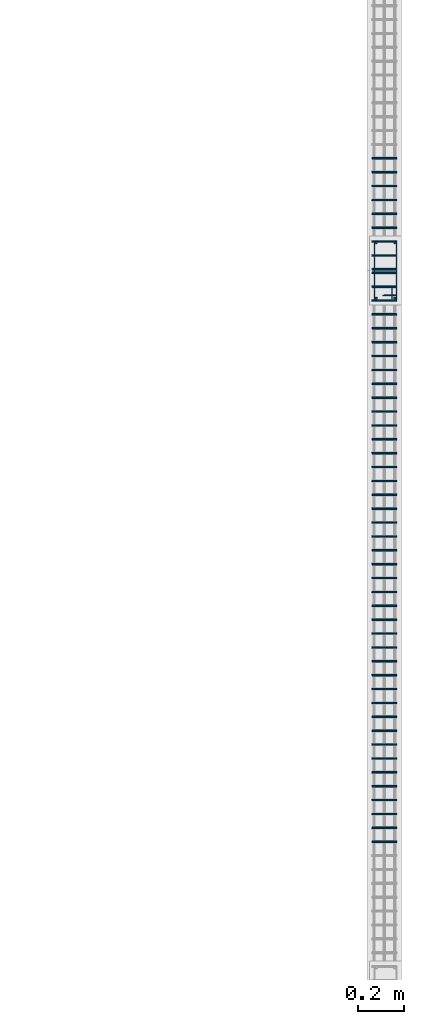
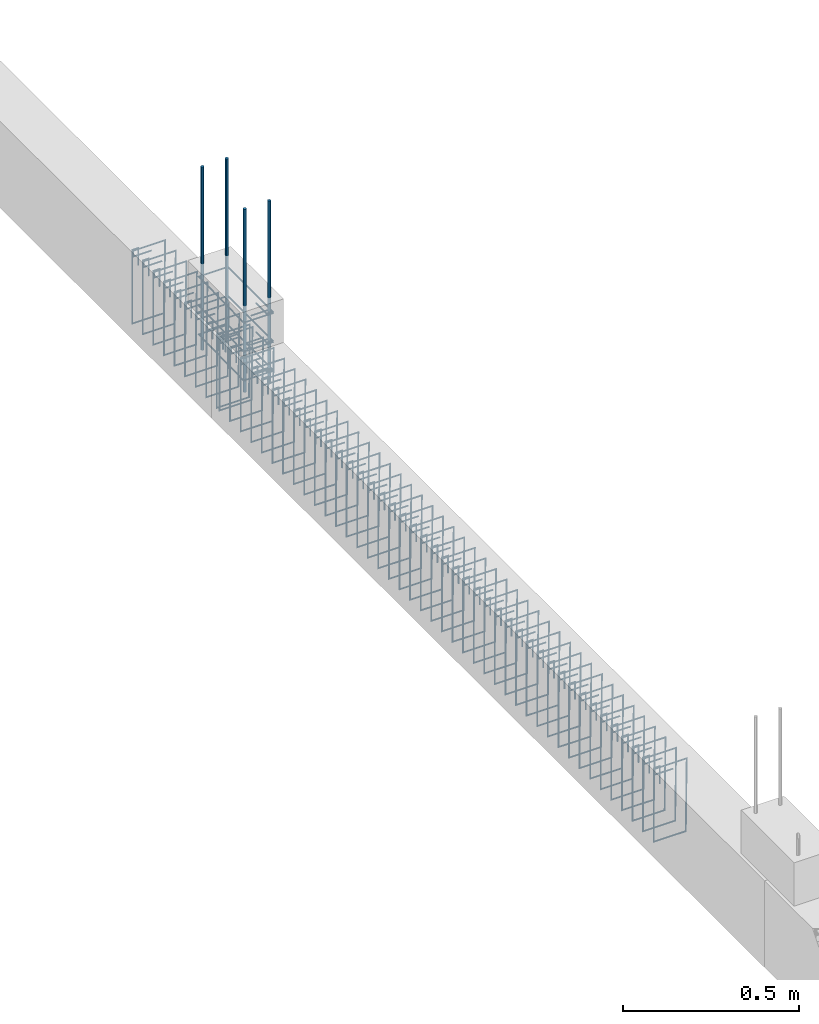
# One storey, part 147 of 150: 58 reinforcing bars.
"""IFC4 building model written with IfcOpenShell, lengths in centimetres."""

import ifcopenshell
import ifcopenshell.guid

model = None  # the IFC model being written
_history = None  # IfcOwnerHistory: only IFC2X3 demands one
_inside = {}  # id of a spatial element -> (the spatial element, [elements in it])
_under = {}  # id of a project, library or spatial element -> (it, [spatial elements below it])
_declared = {}  # id of a project -> (the project, [libraries it declares])
_typed = {}  # id of a type object -> (the type object, [elements of that type])
_made_of = {}  # id of a material, layer set ... -> (it, [elements and type objects made of it])


def new_model(schema):
    """Start an empty IFC model of exactly this schema.

    Asked for "IFC4X3", IfcOpenShell would pick the latest addendum, in which some entities
    have other attributes; the version numbers below select the first issue.
    IFC2X3 requires an IfcOwnerHistory on every rooted entity: one is made here for all.
    """
    global model, _history
    if schema == "IFC4X3":
        model = ifcopenshell.file(schema_version=(4, 3, 0, 0))
    else:
        model = ifcopenshell.file(schema=schema)
    _inside.clear()
    _under.clear()
    _declared.clear()
    _typed.clear()
    _made_of.clear()
    _history = None
    if model.schema == "IFC2X3":
        org = make("IfcOrganization", Name="unknown")
        user = make(
            "IfcPersonAndOrganization",
            ThePerson=make("IfcPerson", FamilyName="unknown"),
            TheOrganization=org,
        )
        app = make(
            "IfcApplication",
            ApplicationDeveloper=org,
            Version="unknown",
            ApplicationFullName="unknown",
            ApplicationIdentifier="unknown",
        )
        _history = make(
            "IfcOwnerHistory",
            OwningUser=user,
            OwningApplication=app,
            ChangeAction="ADDED",
            CreationDate=0,
        )
    return model


def make(cls, **values):
    """One entity of the class cls with the attributes given. An attribute that is None is left unset."""
    return model.create_entity(
        cls, **{name: value for name, value in values.items() if value is not None}
    )


def entity(cls, *values):
    """Any entity or typed value of the class cls, its attributes in the order of the schema. None: left unset."""
    e = model.create_entity(cls)
    for i, value in enumerate(values):
        if value is not None:
            e[i] = value
    return e


def rooted(cls, **values):
    """An entity with a GlobalId (a new one), such as an element, a storey or a relation."""
    return make(cls, GlobalId=ifcopenshell.guid.new(), OwnerHistory=_history, **values)


def si_unit(unit_type, name, prefix=None):
    """IfcSIUnit, for example si_unit("LENGTHUNIT", "METRE", prefix="MILLI")."""
    return make("IfcSIUnit", UnitType=unit_type, Prefix=prefix, Name=name)


def derived_unit(unit_type, elements):
    """IfcDerivedUnit: a product of units, each with its exponent."""
    return make(
        "IfcDerivedUnit",
        Elements=[
            make("IfcDerivedUnitElement", Unit=unit, Exponent=power)
            for unit, power in elements
        ],
        UnitType=unit_type,
    )


def assignment(units):
    """IfcUnitAssignment: the units of a project."""
    return None if units is None else make("IfcUnitAssignment", Units=units)


def point(xyz):
    """IfcCartesianPoint."""
    return None if xyz is None else make("IfcCartesianPoint", Coordinates=xyz)


def direction(xyz):
    """IfcDirection."""
    return None if xyz is None else make("IfcDirection", DirectionRatios=xyz)


def frame(location, z_axis=None, x_axis=None):
    """IfcAxis2Placement3D, a coordinate frame: its origin and axes. An axis left out is left unset."""
    return make(
        "IfcAxis2Placement3D",
        Location=point(location),
        Axis=direction(z_axis),
        RefDirection=direction(x_axis),
    )


def origin_with_axes():
    """The frame at (0, 0, 0) with the z axis (0, 0, 1) and the x axis (1, 0, 0) written out."""
    return frame((0.0, 0.0, 0.0), z_axis=(0.0, 0.0, 1.0), x_axis=(1.0, 0.0, 0.0))


def place(relative_to, where):
    """IfcLocalPlacement: puts the frame where relative to a parent placement (None: the world)."""
    return make(
        "IfcLocalPlacement", PlacementRelTo=relative_to, RelativePlacement=where
    )


def context(
    kind, dimensions, precision=None, world=None, true_north=None, identifier=None
):
    """IfcGeometricRepresentationContext, for example the 3D "Model" context."""
    return make(
        "IfcGeometricRepresentationContext",
        ContextIdentifier=identifier,
        ContextType=kind,
        CoordinateSpaceDimension=dimensions,
        Precision=precision,
        WorldCoordinateSystem=world,
        TrueNorth=true_north,
    )


def project(units=None, contexts=None):
    """IfcProject with its units and contexts."""
    return rooted(
        "IfcProject",
        Name="project",
        RepresentationContexts=contexts,
        UnitsInContext=assignment(units),
    )


def spatial(cls, under=None, at=None, **own):
    """A site, building, storey or space (cls), placed at a placement, below another one or the project."""
    s = rooted(cls, ObjectPlacement=at, **own)
    if under is not None:
        _under.setdefault(under.id(), (under, []))[1].append(s)
    return s


def shape(context_of_items, identifier, shape_type, items):
    """IfcShapeRepresentation: the items that make up one representation, for example the "Body"."""
    return make(
        "IfcShapeRepresentation",
        ContextOfItems=context_of_items,
        RepresentationIdentifier=identifier,
        RepresentationType=shape_type,
        Items=items,
    )


def source(mapping_origin, context_of_items, identifier, shape_type, items):
    """IfcRepresentationMap: a shape defined once, which mapped items show again and again."""
    return make(
        "IfcRepresentationMap",
        MappingOrigin=mapping_origin,
        MappedRepresentation=shape(context_of_items, identifier, shape_type, items),
    )


def transform(
    local_origin,
    x_axis=None,
    y_axis=None,
    z_axis=None,
    scale=None,
    scale2=None,
    scale3=None,
    uniform=True,
):
    """IfcCartesianTransformationOperator3D, or its non-uniform kind. x_axis, y_axis, z_axis: its Axis1, 2, 3."""
    if uniform:
        return make(
            "IfcCartesianTransformationOperator3D",
            Axis1=direction(x_axis),
            Axis2=direction(y_axis),
            LocalOrigin=point(local_origin),
            Scale=scale,
            Axis3=direction(z_axis),
        )
    return make(
        "IfcCartesianTransformationOperator3DnonUniform",
        Axis1=direction(x_axis),
        Axis2=direction(y_axis),
        LocalOrigin=point(local_origin),
        Scale=scale,
        Axis3=direction(z_axis),
        Scale2=scale2,
        Scale3=scale3,
    )


def mapped(mapping_source, mapping_target):
    """IfcMappedItem: shows the shape of a source again, moved by a transform."""
    return make(
        "IfcMappedItem", MappingSource=mapping_source, MappingTarget=mapping_target
    )


def made_of(thing, what):
    """Note that an element or type object is made of a material, layer set ...; save() writes the relation."""
    if what is not None:
        _made_of.setdefault(what.id(), (what, []))[1].append(thing)
    return thing


def element(
    cls,
    number,
    at=None,
    inside=None,
    cuts=None,
    type_object=None,
    material=None,
    context=None,
    identifier="Body",
    shape_type=None,
    held_by="IfcProductDefinitionShape",
    body=None,
    shapes=None,
    **own,
):
    """One element of the class cls, such as IfcWall. Its Tag is "e" and its number.

    at: its placement. inside: the storey or other place that contains it. cuts: it is an
    opening in that element (IfcRelVoidsElement). A single representation is given by context,
    identifier, shape_type and body (its items); several are given by shapes. held_by: the class
    of the entity that holds the representations. save() writes the other relations.
    """
    e = rooted(cls, Tag="e%d" % number, ObjectPlacement=at, **own)
    if body is not None:
        shapes = [shape(context, identifier, shape_type, body)]
    if shapes is not None:
        e.Representation = make(held_by, Representations=shapes)
    if inside is not None:
        _inside.setdefault(inside.id(), (inside, []))[1].append(e)
    if cuts is not None:
        rooted(
            "IfcRelVoidsElement", RelatingBuildingElement=cuts, RelatedOpeningElement=e
        )
    if type_object is not None:
        _typed.setdefault(type_object.id(), (type_object, []))[1].append(e)
    return made_of(e, material)


def aggregate(whole, parts):
    """IfcRelAggregates: a whole, such as a stair, and the parts it consists of."""
    return rooted("IfcRelAggregates", RelatingObject=whole, RelatedObjects=parts)


def save(model, path):
    """Write the relations noted so far, then the file.

    IfcRelAggregates (storeys below a building ...), IfcRelContainedInSpatialStructure (elements
    in a storey), IfcRelDefinesByType, IfcRelAssociatesMaterial and IfcRelDeclares: one each for
    every whole, place, type object, material and project.
    """
    for whole, parts in _under.values():
        aggregate(whole, parts)
    for where, things in _inside.values():
        rooted(
            "IfcRelContainedInSpatialStructure",
            RelatedElements=things,
            RelatingStructure=where,
        )
    for kind, things in _typed.values():
        rooted("IfcRelDefinesByType", RelatedObjects=things, RelatingType=kind)
    for what, things in _made_of.values():
        rooted("IfcRelAssociatesMaterial", RelatedObjects=things, RelatingMaterial=what)
    for by, libraries in _declared.values():
        rooted("IfcRelDeclares", RelatingContext=by, RelatedDefinitions=libraries)
    model.write(path)


model = new_model("IFC4")

# Units and contexts
model_context = context("Model", 3, precision=1e-05, world=origin_with_axes(), identifier="Body")
ifc_project = project(units=[si_unit("LENGTHUNIT", "METRE", prefix="CENTI"), si_unit("VOLUMEUNIT", "CUBIC_METRE"), si_unit("AREAUNIT", "SQUARE_METRE"), si_unit("POWERUNIT", "WATT"), si_unit("LUMINOUSFLUXUNIT", "LUMEN"), si_unit("ELECTRICCURRENTUNIT", "AMPERE"), si_unit("PRESSUREUNIT", "PASCAL", prefix="KILO"), si_unit("MASSUNIT", "GRAM", prefix="KILO"), si_unit("PLANEANGLEUNIT", "RADIAN"), derived_unit("VOLUMETRICFLOWRATEUNIT", [(si_unit("LENGTHUNIT", "METRE"), 3), (si_unit("TIMEUNIT", "SECOND"), -1)])], contexts=[model_context])

# Site, building, storey
site_placement = place(None, frame((-4000.0, 0.0, 0.0), z_axis=(0.0, 0.0, 1.0), x_axis=(1.0, 0.0, 0.0)))
site = spatial("IfcSite", under=ifc_project, at=site_placement, Name="PADRÃO")
building_placement = place(site_placement, frame((0.0, 0.0, -14.0)))
building = spatial("IfcBuilding", under=site, at=building_placement, Name="CRECHE PRÉ-ESCOLA TIPO 2")
placement = place(building_placement, origin_with_axes())
storey_placement = place(placement, frame((0.0, 0.0, 30.0), z_axis=(0.0, 0.0, 1.0), x_axis=(1.0, 0.0, 0.0)))
storey = spatial("IfcBuildingStorey", under=building, at=storey_placement, Name="VIGA BALDRAME", CompositionType="ELEMENT", Elevation=16.0)

# Reinforcing bars
shared_shape_1 = source(origin_with_axes(), model_context, "Body", "AdvancedSweptSolid", [
    entity("IfcSweptDiskSolid", entity("IfcCompositeCurve", [entity("IfcCompositeCurveSegment", "CONTINUOUS", True, entity("IfcPolyline", [entity("IfcCartesianPoint", [4.25, 21.75, 0.0]), entity("IfcCartesianPoint", [4.25, 27.75, 0.0])])), entity("IfcCompositeCurveSegment", "CONTINUOUS", True, entity("IfcPolyline", [entity("IfcCartesianPoint", [4.25, 27.75, 0.0]), entity("IfcCartesianPoint", [2.25, 27.75, 0.0])])), entity("IfcCompositeCurveSegment", "CONTINUOUS", True, entity("IfcPolyline", [entity("IfcCartesianPoint", [2.25, 27.75, 0.0]), entity("IfcCartesianPoint", [2.25, 2.25, 0.0])])), entity("IfcCompositeCurveSegment", "CONTINUOUS", True, entity("IfcPolyline", [entity("IfcCartesianPoint", [2.25, 2.25, 0.0]), entity("IfcCartesianPoint", [11.75, 2.25, 0.0])])), entity("IfcCompositeCurveSegment", "CONTINUOUS", True, entity("IfcPolyline", [entity("IfcCartesianPoint", [11.75, 2.25, 0.0]), entity("IfcCartesianPoint", [11.75, 27.75, -0.5])])), entity("IfcCompositeCurveSegment", "CONTINUOUS", True, entity("IfcPolyline", [entity("IfcCartesianPoint", [11.75, 27.75, -0.5]), entity("IfcCartesianPoint", [2.25, 27.75, -0.5])])), entity("IfcCompositeCurveSegment", "CONTINUOUS", True, entity("IfcPolyline", [entity("IfcCartesianPoint", [2.25, 27.75, -0.5]), entity("IfcCartesianPoint", [2.25, 25.75, -0.5])])), entity("IfcCompositeCurveSegment", "CONTINUOUS", True, entity("IfcPolyline", [entity("IfcCartesianPoint", [2.25, 25.75, -0.5]), entity("IfcCartesianPoint", [8.25, 25.75, -0.5])]))], False), 0.25),
])
for number, where, z_axis, x_axis, name in (
    (1, (3999.0, 3870.0, -15.0), (0.0, 0.0, 1.0), (-1.0, 0.0, 0.0), "P30 - Estribo"),
    (2, (3999.0, 3870.0, -5.0), (0.0, 0.0, 1.0), (-1.0, 0.0, 0.0), "P30 - Estribo"),
    (3, (3999.0, 3870.0, -25.0), (0.0, 0.0, 1.0), (-1.0, 0.0, 0.0), "P30 - Estribo"),
):
    element("IfcReinforcingBar", number, at=place(storey_placement, frame(where, z_axis=z_axis, x_axis=x_axis)), inside=storey, Name=name, BarLength=0.0, CrossSectionArea=1.9634954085e-05, NominalDiameter=0.5, PredefinedType="MAIN", context=model_context, shape_type="MappedRepresentation", body=[
        mapped(shared_shape_1, transform((0.0, 0.0, 0.0), scale=1.0)),
    ])
shared_shape_2 = source(origin_with_axes(), model_context, "Body", "AdvancedSweptSolid", [
    entity("IfcSweptDiskSolid", entity("IfcCompositeCurve", [entity("IfcCompositeCurveSegment", "CONTINUOUS", True, entity("IfcPolyline", [entity("IfcCartesianPoint", [2.0, -6.0, 0.0]), entity("IfcCartesianPoint", [2.0, 0.0, 0.0])])), entity("IfcCompositeCurveSegment", "CONTINUOUS", True, entity("IfcPolyline", [entity("IfcCartesianPoint", [2.0, 0.0, 0.0]), entity("IfcCartesianPoint", [0.0, 0.0, 0.0])])), entity("IfcCompositeCurveSegment", "CONTINUOUS", True, entity("IfcPolyline", [entity("IfcCartesianPoint", [0.0, 0.0, 0.0]), entity("IfcCartesianPoint", [0.0, -25.5, 0.0])])), entity("IfcCompositeCurveSegment", "CONTINUOUS", True, entity("IfcPolyline", [entity("IfcCartesianPoint", [0.0, -25.5, 0.0]), entity("IfcCartesianPoint", [10.5, -25.5, 0.0])])), entity("IfcCompositeCurveSegment", "CONTINUOUS", True, entity("IfcPolyline", [entity("IfcCartesianPoint", [10.5, -25.5, 0.0]), entity("IfcCartesianPoint", [10.5, 0.0, 0.5])])), entity("IfcCompositeCurveSegment", "CONTINUOUS", True, entity("IfcPolyline", [entity("IfcCartesianPoint", [10.5, 0.0, 0.5]), entity("IfcCartesianPoint", [0.0, 0.0, 0.5])])), entity("IfcCompositeCurveSegment", "CONTINUOUS", True, entity("IfcPolyline", [entity("IfcCartesianPoint", [0.0, 0.0, 0.5]), entity("IfcCartesianPoint", [0.0, -2.0, 0.5])])), entity("IfcCompositeCurveSegment", "CONTINUOUS", True, entity("IfcPolyline", [entity("IfcCartesianPoint", [0.0, -2.0, 0.5]), entity("IfcCartesianPoint", [6.0, -2.0, 0.5])]))], False), 0.25),
])
for number, where, z_axis, x_axis, name in (
    (4, (3986.25, 3854.25, -17.25), (0.0, -1.0, 0.0), (1.0, 0.0, 0.0), "V230 - Estribo"),
    (5, (3986.25, 3848.25, -17.25), (0.0, -1.0, 0.0), (1.0, 0.0, 0.0), "V230 - Estribo"),
    (6, (3986.25, 3842.25, -17.25), (0.0, -1.0, 0.0), (1.0, 0.0, 0.0), "V230 - Estribo"),
    (7, (3986.25, 3836.25, -17.25), (0.0, -1.0, 0.0), (1.0, 0.0, 0.0), "V230 - Estribo"),
    (8, (3986.25, 3830.25, -17.25), (0.0, -1.0, 0.0), (1.0, 0.0, 0.0), "V230 - Estribo"),
    (9, (3986.25, 3824.25, -17.25), (0.0, -1.0, 0.0), (1.0, 0.0, 0.0), "V230 - Estribo"),
    (10, (3986.25, 3818.25, -17.25), (0.0, -1.0, 0.0), (1.0, 0.0, 0.0), "V230 - Estribo"),
    (11, (3986.25, 3812.25, -17.25), (0.0, -1.0, 0.0), (1.0, 0.0, 0.0), "V230 - Estribo"),
    (12, (3986.25, 3806.25, -17.25), (0.0, -1.0, 0.0), (1.0, 0.0, 0.0), "V230 - Estribo"),
    (13, (3986.25, 3800.25, -17.25), (0.0, -1.0, 0.0), (1.0, 0.0, 0.0), "V230 - Estribo"),
    (14, (3986.25, 3794.25, -17.25), (0.0, -1.0, 0.0), (1.0, 0.0, 0.0), "V230 - Estribo"),
    (15, (3986.25, 3788.25, -17.25), (0.0, -1.0, 0.0), (1.0, 0.0, 0.0), "V230 - Estribo"),
    (16, (3986.25, 3782.25, -17.25), (0.0, -1.0, 0.0), (1.0, 0.0, 0.0), "V230 - Estribo"),
    (17, (3986.25, 3776.25, -17.25), (0.0, -1.0, 0.0), (1.0, 0.0, 0.0), "V230 - Estribo"),
    (18, (3986.25, 3770.25, -17.25), (0.0, -1.0, 0.0), (1.0, 0.0, 0.0), "V230 - Estribo"),
    (19, (3986.25, 3764.25, -17.25), (0.0, -1.0, 0.0), (1.0, 0.0, 0.0), "V230 - Estribo"),
    (20, (3986.25, 3758.25, -17.25), (0.0, -1.0, 0.0), (1.0, 0.0, 0.0), "V230 - Estribo"),
    (21, (3986.25, 3746.25, -17.25), (0.0, -1.0, 0.0), (1.0, 0.0, 0.0), "V230 - Estribo"),
    (22, (3986.25, 3740.25, -17.25), (0.0, -1.0, 0.0), (1.0, 0.0, 0.0), "V230 - Estribo"),
    (23, (3986.25, 3734.25, -17.25), (0.0, -1.0, 0.0), (1.0, 0.0, 0.0), "V230 - Estribo"),
    (24, (3986.25, 3728.25, -17.25), (0.0, -1.0, 0.0), (1.0, 0.0, 0.0), "V230 - Estribo"),
    (25, (3986.25, 3722.25, -17.25), (0.0, -1.0, 0.0), (1.0, 0.0, 0.0), "V230 - Estribo"),
    (26, (3986.25, 3716.25, -17.25), (0.0, -1.0, 0.0), (1.0, 0.0, 0.0), "V230 - Estribo"),
    (27, (3986.25, 3710.25, -17.25), (0.0, -1.0, 0.0), (1.0, 0.0, 0.0), "V230 - Estribo"),
    (28, (3986.25, 3704.25, -17.25), (0.0, -1.0, 0.0), (1.0, 0.0, 0.0), "V230 - Estribo"),
    (29, (3986.25, 3698.25, -17.25), (0.0, -1.0, 0.0), (1.0, 0.0, 0.0), "V230 - Estribo"),
    (30, (3986.25, 3692.25, -17.25), (0.0, -1.0, 0.0), (1.0, 0.0, 0.0), "V230 - Estribo"),
    (31, (3986.25, 3686.25, -17.25), (0.0, -1.0, 0.0), (1.0, 0.0, 0.0), "V230 - Estribo"),
    (32, (3986.25, 3680.25, -17.25), (0.0, -1.0, 0.0), (1.0, 0.0, 0.0), "V230 - Estribo"),
    (33, (3986.25, 3674.25, -17.25), (0.0, -1.0, 0.0), (1.0, 0.0, 0.0), "V230 - Estribo"),
    (34, (3986.25, 3668.25, -17.25), (0.0, -1.0, 0.0), (1.0, 0.0, 0.0), "V230 - Estribo"),
    (35, (3986.25, 3662.25, -17.25), (0.0, -1.0, 0.0), (1.0, 0.0, 0.0), "V230 - Estribo"),
    (36, (3986.25, 3656.25, -17.25), (0.0, -1.0, 0.0), (1.0, 0.0, 0.0), "V230 - Estribo"),
    (37, (3986.25, 3650.25, -17.25), (0.0, -1.0, 0.0), (1.0, 0.0, 0.0), "V230 - Estribo"),
    (38, (3986.25, 3644.25, -17.25), (0.0, -1.0, 0.0), (1.0, 0.0, 0.0), "V230 - Estribo"),
    (39, (3986.25, 3638.25, -17.25), (0.0, -1.0, 0.0), (1.0, 0.0, 0.0), "V230 - Estribo"),
    (40, (3986.25, 3632.25, -17.25), (0.0, -1.0, 0.0), (1.0, 0.0, 0.0), "V230 - Estribo"),
    (41, (3986.25, 3626.25, -17.25), (0.0, -1.0, 0.0), (1.0, 0.0, 0.0), "V230 - Estribo"),
    (42, (3986.25, 3620.25, -17.25), (0.0, -1.0, 0.0), (1.0, 0.0, 0.0), "V230 - Estribo"),
    (43, (3986.25, 3614.25, -17.25), (0.0, -1.0, 0.0), (1.0, 0.0, 0.0), "V230 - Estribo"),
    (44, (3986.25, 3608.25, -17.25), (0.0, -1.0, 0.0), (1.0, 0.0, 0.0), "V230 - Estribo"),
    (45, (3986.25, 3752.25, -17.25), (0.0, -1.0, 0.0), (1.0, 0.0, 0.0), "V230 - Estribo"),
):
    element("IfcReinforcingBar", number, at=place(storey_placement, frame(where, z_axis=z_axis, x_axis=x_axis)), inside=storey, Name=name, BarLength=0.0, CrossSectionArea=1.9634954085e-05, NominalDiameter=0.5, PredefinedType="MAIN", context=model_context, shape_type="MappedRepresentation", body=[
        mapped(shared_shape_2, transform((0.0, 0.0, 0.0), scale=1.0)),
    ])
shared_shape_3 = source(origin_with_axes(), model_context, "Body", "AdvancedSweptSolid", [
    entity("IfcSweptDiskSolid", entity("IfcCompositeCurve", [entity("IfcCompositeCurveSegment", "CONTINUOUS", True, entity("IfcPolyline", [entity("IfcCartesianPoint", [2.0, -6.0, 0.0]), entity("IfcCartesianPoint", [2.0, 0.0, 0.0])])), entity("IfcCompositeCurveSegment", "CONTINUOUS", True, entity("IfcPolyline", [entity("IfcCartesianPoint", [2.0, 0.0, 0.0]), entity("IfcCartesianPoint", [0.0, 0.0, 0.0])])), entity("IfcCompositeCurveSegment", "CONTINUOUS", True, entity("IfcPolyline", [entity("IfcCartesianPoint", [0.0, 0.0, 0.0]), entity("IfcCartesianPoint", [0.0, -25.5, 0.0])])), entity("IfcCompositeCurveSegment", "CONTINUOUS", True, entity("IfcPolyline", [entity("IfcCartesianPoint", [0.0, -25.5, 0.0]), entity("IfcCartesianPoint", [10.5, -25.5, 0.0])])), entity("IfcCompositeCurveSegment", "CONTINUOUS", True, entity("IfcPolyline", [entity("IfcCartesianPoint", [10.5, -25.5, 0.0]), entity("IfcCartesianPoint", [10.5, 0.0, 0.5])])), entity("IfcCompositeCurveSegment", "CONTINUOUS", True, entity("IfcPolyline", [entity("IfcCartesianPoint", [10.5, 0.0, 0.5]), entity("IfcCartesianPoint", [0.0, 0.0, 0.5])])), entity("IfcCompositeCurveSegment", "CONTINUOUS", True, entity("IfcPolyline", [entity("IfcCartesianPoint", [0.0, 0.0, 0.5]), entity("IfcCartesianPoint", [0.0, -2.0, 0.5])])), entity("IfcCompositeCurveSegment", "CONTINUOUS", True, entity("IfcPolyline", [entity("IfcCartesianPoint", [0.0, -2.0, 0.5]), entity("IfcCartesianPoint", [6.0, -2.0, 0.5])]))], False), 0.25),
])
for number, where, z_axis, x_axis, name in (
    (46, (3986.25, 3903.75, -17.25), (0.0, -1.0, 0.0), (1.0, 0.0, 0.0), "V230 - Estribo"),
    (47, (3986.25, 3897.75, -17.25), (0.0, -1.0, 0.0), (1.0, 0.0, 0.0), "V230 - Estribo"),
    (48, (3986.25, 3891.75, -17.25), (0.0, -1.0, 0.0), (1.0, 0.0, 0.0), "V230 - Estribo"),
    (49, (3986.25, 3885.75, -17.25), (0.0, -1.0, 0.0), (1.0, 0.0, 0.0), "V230 - Estribo"),
    (50, (3986.25, 3879.75, -17.25), (0.0, -1.0, 0.0), (1.0, 0.0, 0.0), "V230 - Estribo"),
    (51, (3986.25, 3873.75, -17.25), (0.0, -1.0, 0.0), (1.0, 0.0, 0.0), "V230 - Estribo"),
    (52, (3986.25, 3867.75, -17.25), (0.0, -1.0, 0.0), (1.0, 0.0, 0.0), "V230 - Estribo"),
    (53, (3986.25, 3861.75, -17.25), (0.0, -1.0, 0.0), (1.0, 0.0, 0.0), "V230 - Estribo"),
    (54, (3986.25, 3855.75, -17.25), (0.0, -1.0, 0.0), (1.0, 0.0, 0.0), "V230 - Estribo"),
):
    element("IfcReinforcingBar", number, at=place(storey_placement, frame(where, z_axis=z_axis, x_axis=x_axis)), inside=storey, Name=name, BarLength=0.0, CrossSectionArea=1.9634954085e-05, NominalDiameter=0.5, PredefinedType="MAIN", context=model_context, shape_type="MappedRepresentation", body=[
        mapped(shared_shape_3, transform((0.0, 0.0, 0.0), scale=1.0)),
    ])
for number, where, z_axis, x_axis, name in (
    (55, (3996.0, 3843.0, 33.3573001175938), (0.0, 0.0, 1.0), (1.0, 0.0, 0.0), "P30 - Longitudinal"),
    (56, (3988.0, 3867.0, 33.3573001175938), (0.0, 0.0, 1.0), (1.0, 0.0, 0.0), "P30 - Longitudinal"),
    (57, (3996.0, 3867.0, 33.3573001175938), (0.0, 0.0, 1.0), (1.0, 0.0, 0.0), "P30 - Longitudinal"),
    (58, (3988.0, 3843.0, 33.3573001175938), (0.0, 0.0, 1.0), (1.0, 0.0, 0.0), "P30 - Longitudinal"),
):
    element("IfcReinforcingBar", number, at=place(storey_placement, frame(where, z_axis=z_axis, x_axis=x_axis)), inside=storey, Name=name, BarLength=0.0, CrossSectionArea=7.853981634e-05, NominalDiameter=1.0, PredefinedType="MAIN", context=model_context, shape_type="AdvancedSweptSolid", body=[
        entity("IfcSweptDiskSolid", entity("IfcCompositeCurve", [entity("IfcCompositeCurveSegment", "CONTINUOUS", True, entity("IfcPolyline", [entity("IfcCartesianPoint", [0.0, 0.0, -63.3573001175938]), entity("IfcCartesianPoint", [0.0, 0.0, 0.0])]))], False), 0.5),
    ])

save(model, "model.ifc")
